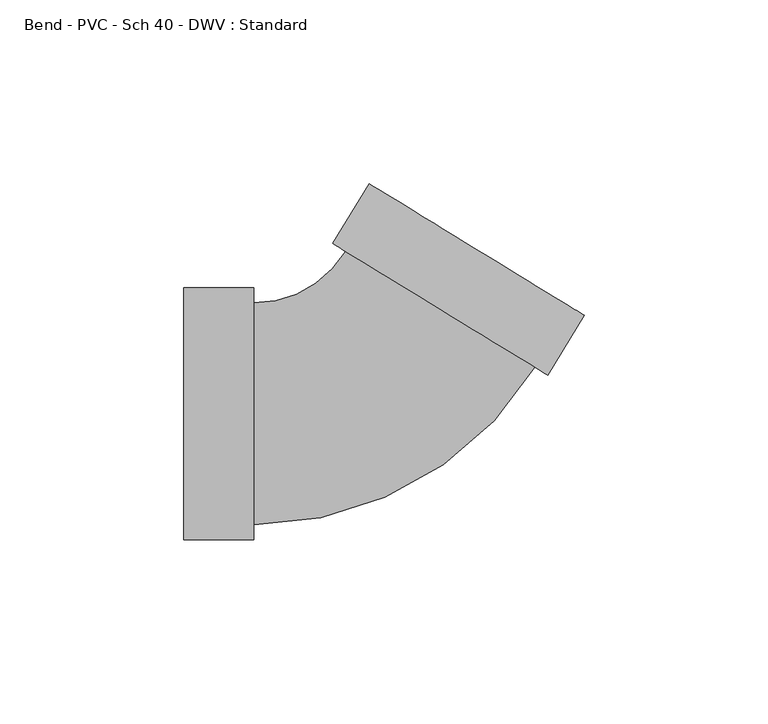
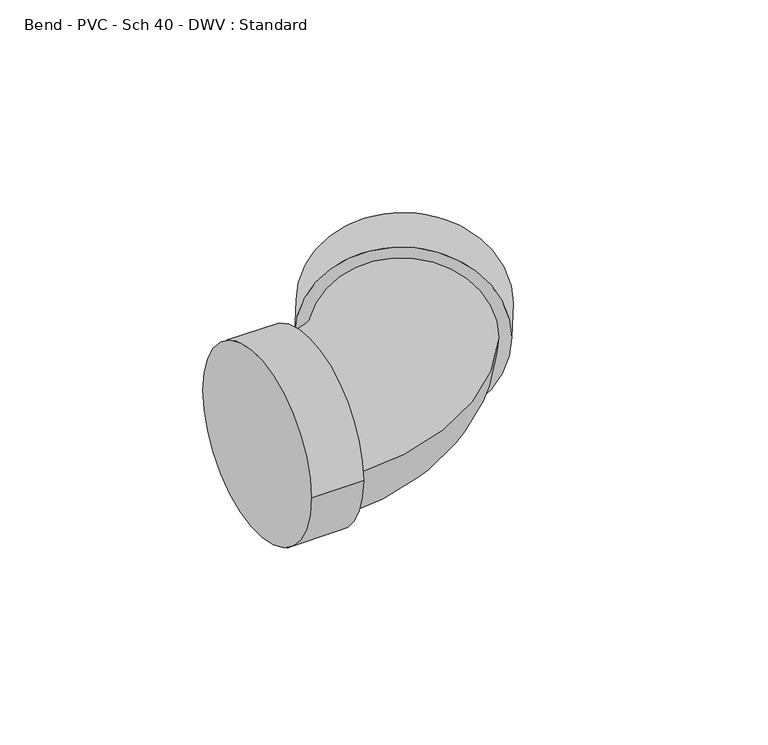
"""IFC4 building model written with IfcOpenShell, lengths in millimetres: pipe fitting geometry, Bend - PVC - Sch 40 - DWV : Standard."""

from ifc_helpers import new_model, si_unit, point, frame, origin, place, context, project, spatial, circle_curve, ellipse_curve, trimmed, source, transform, mapped, element, save
from ifc_brep_helpers import plane_surface, cylinder_surface, revolved_surface, advanced_brep


def bend_pvc_sch_40_dwv_standard_7e7a7e15(model_context):
    return source(origin(), model_context, "Body", "AdvancedBrep", [
        advanced_brep(
        [(-52.4002, -34.3154, 0.0), (-52.4002, 34.3154, 0.0), (-33.3502, -34.3154, 0.0), (-33.3502, 34.3154, 0.0), (-33.3502, -30.1625, 0.0), (-33.3502, 30.1625, 0.0), (-8.3342675, 44.1876932, 0.0), (43.1311411, 12.7167965, 0.0), (46.6741282, 10.5502737, 0.0), (-11.8772546, 46.354216, 0.0), (56.6123061, 26.802508, 0.0), (-1.9390766, 62.6064503, 0.0)],
        [
            (0, 1, circle_curve(frame((-52.4002, 0.0, 0.0), z_axis=(-1.0, 0.0, 0.0), x_axis=(0.0, 1.0, 0.0)), 34.3154)),
            (1, 0, circle_curve(frame((-52.4002, 0.0, 0.0), z_axis=(-1.0, 0.0, 0.0), x_axis=(0.0, 1.0, 0.0)), 34.3154)),
            (2, 3, circle_curve(frame((-33.3502, 0.0, 0.0), z_axis=(1.0, 0.0, 0.0), x_axis=(0.0, 1.0, 0.0)), 34.3154)),
            (3, 2, circle_curve(frame((-33.3502, 0.0, 0.0), z_axis=(1.0, 0.0, 0.0), x_axis=(0.0, 1.0, 0.0)), 34.3154)),
            (4, 5, circle_curve(frame((-33.3502, 0.0, 0.0), z_axis=(-1.0, 0.0, 0.0), x_axis=(0.0, 1.0, 0.0)), 30.1625)),
            (5, 4, circle_curve(frame((-33.3502, 0.0, 0.0), z_axis=(-1.0, 0.0, 0.0), x_axis=(0.0, 1.0, 0.0)), 30.1625)),
            (0, 2),
            (3, 1),
            (6, 5, circle_curve(frame((-33.3502, 59.4848384, 0.0), z_axis=(0.0, 0.0, -1.0), x_axis=(0.0, -1.0, 0.0)), 29.3223384)),
            (4, 7, circle_curve(frame((-33.3502, 59.4848384, 0.0), z_axis=(0.0, 0.0, 1.0), x_axis=(0.0, -1.0, 0.0)), 89.6473384)),
            (7, 6, circle_curve(frame((17.3984368, 28.4522448, 0.0), z_axis=(-0.5216891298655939, -0.8531356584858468, 0.0), x_axis=(-0.8531356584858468, 0.5216891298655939, 0.0)), 30.1625)),
            (6, 7, circle_curve(frame((17.3984368, 28.4522448, 0.0), z_axis=(-0.5216891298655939, -0.8531356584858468, 0.0), x_axis=(-0.8531356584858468, 0.5216891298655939, 0.0)), 30.1625)),
            (8, 9, circle_curve(frame((17.3984368, 28.4522448, 0.0), z_axis=(-0.5216891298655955, -0.853135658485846, 0.0), x_axis=(-0.853135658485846, 0.5216891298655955, 0.0)), 34.3154)),
            (9, 8, circle_curve(frame((17.3984368, 28.4522448, 0.0), z_axis=(-0.5216891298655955, -0.853135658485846, 0.0), x_axis=(-0.853135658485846, 0.5216891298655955, 0.0)), 34.3154)),
            (10, 11, circle_curve(frame((27.3366147, 44.7044791, 0.0), z_axis=(0.5216891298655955, 0.853135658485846, 0.0), x_axis=(-0.853135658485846, 0.5216891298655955, 0.0)), 34.3154)),
            (11, 10, circle_curve(frame((27.3366147, 44.7044791, 0.0), z_axis=(0.5216891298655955, 0.853135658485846, 0.0), x_axis=(-0.853135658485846, 0.5216891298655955, 0.0)), 34.3154)),
            (8, 10),
            (11, 9),
        ],
        [
            plane_surface(frame((-52.4002, 0.0, 0.0), z_axis=(-1.0, 0.0, 0.0), x_axis=(0.0, 0.0, 1.0))),
            plane_surface(frame((-33.3502, 0.0, 0.0), z_axis=(1.0, 0.0, 0.0), x_axis=(0.0, 0.0, 1.0))),
            cylinder_surface(frame((-52.4002, 0.0, 0.0), z_axis=(-1.0, 0.0, 0.0), x_axis=(0.0, 1.0, 0.0)), 34.3154),
            revolved_surface(trimmed(ellipse_curve(frame((-33.3502, 0.0, 0.0), z_axis=(-1.0, 0.0, 0.0), x_axis=(0.0, 1.0, 0.0)), 30.1625, 30.1625), [point((-33.3502, -30.1625, 0.0))], [point((-33.3502, 30.1625, 0.0))], True, "CARTESIAN"), (-33.3502, 59.4848384, 0.0), (0.0, 0.0, 1.0)),
            revolved_surface(trimmed(ellipse_curve(frame((-33.3502, 0.0, 0.0), z_axis=(-1.0, 0.0, 0.0), x_axis=(0.0, 1.0, 0.0)), 30.1625, 30.1625), [point((-33.3502, 30.1625, 0.0))], [point((-33.3502, -30.1625, 0.0))], True, "CARTESIAN"), (-33.3502, 59.4848384, 0.0), (0.0, 0.0, 1.0)),
            plane_surface(frame((17.3984368, 28.4522448, 0.0), z_axis=(-0.5216891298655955, -0.853135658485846, 0.0), x_axis=(0.0, 0.0, 1.0))),
            plane_surface(frame((27.3366147, 44.7044791, 0.0), z_axis=(0.5216891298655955, 0.853135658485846, 0.0), x_axis=(0.0, 0.0, 1.0))),
            cylinder_surface(frame((17.3984368, 28.4522448, 0.0), z_axis=(-0.5216891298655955, -0.853135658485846, 0.0), x_axis=(-0.853135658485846, 0.5216891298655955, 0.0)), 34.3154),
        ],
        [
            (0, [[1, 2]]),
            (1, [[3, 4], [5, 6]]),
            (2, [[-1, 7, -4, 8]]),
            (2, [[-2, -8, -3, -7]]),
            (3, [[9, -5, 10, 11]]),
            (4, [[-9, 12, -10, -6]]),
            (5, [[13, 14], [-11, -12]]),
            (6, [[15, 16]]),
            (7, [[-13, 17, -16, 18]]),
            (7, [[-14, -18, -15, -17]]),
        ],
    ),
    ])


if __name__ == "__main__":
    model = new_model("IFC4")
    model_context = context("Model", 3, world=origin())
    ifc_project = project(units=[si_unit("LENGTHUNIT", "METRE", prefix="MILLI")], contexts=[model_context])
    site = spatial("IfcSite", under=ifc_project)
    building = spatial("IfcBuilding", under=site)
    placement = place(None, origin())
    bend_pvc_sch_40_dwv_standard_shape = bend_pvc_sch_40_dwv_standard_7e7a7e15(model_context)
    element("IfcPipeFitting", 1, ObjectType="Bend - PVC - Sch 40 - DWV : Standard", at=placement, inside=building, context=model_context, shape_type="MappedRepresentation", body=[
        mapped(bend_pvc_sch_40_dwv_standard_shape, transform((0.0, 0.0, 0.0), x_axis=(1.0, 0.0, 0.0), y_axis=(0.0, 1.0, 0.0), z_axis=(0.0, 0.0, 1.0))),
    ])
    save(model, "model.ifc")
